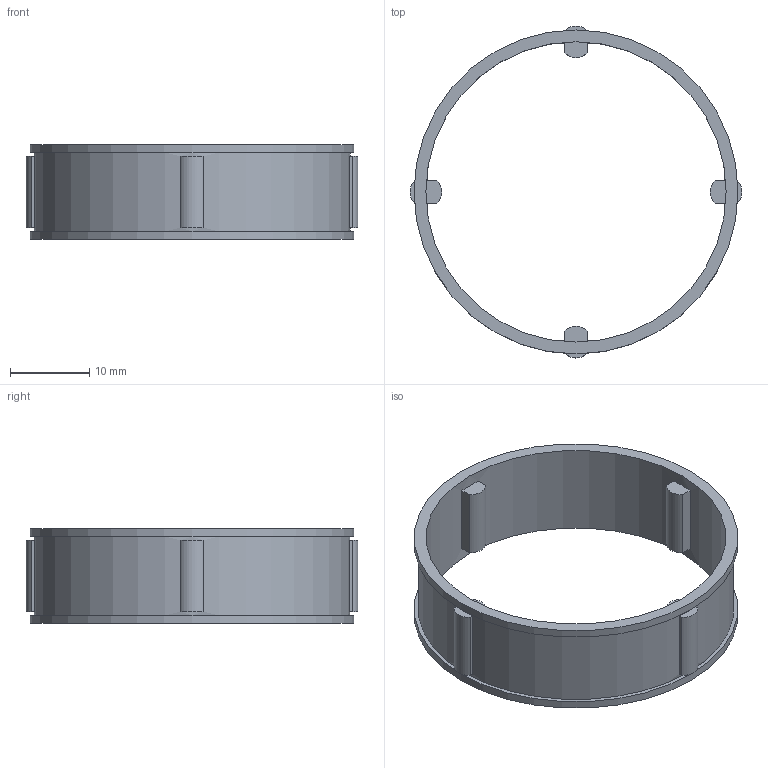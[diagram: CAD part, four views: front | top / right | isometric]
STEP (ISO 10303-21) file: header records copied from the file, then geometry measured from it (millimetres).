
FILE_DESCRIPTION(/* description */ (''),/* implementation_level */ '2;1');
FILE_NAME(/* name */ '300462 FE 442 M.stp',/* time_stamp */ '2016-11-03T13:35:36+01:00',/* author */ (''),/* organization */ (''),/* preprocessor_version */ 'ST-DEVELOPER v15',/* originating_system */ 'SIEMENS PLM Software NX 8.5',/* authorisation */ '');
FILE_SCHEMA (('CONFIG_CONTROL_DESIGN'));
Length unit declared in the file: millimetre
Products named in the file (1): ATE0000081_01
Bounding box: 42 x 42 x 12 mm (x, y, z)
Volume: 1873 mm3; surface area: 3656.4 mm2
Topology: 1 solids, 1 shells, 48 faces, 114 edges, 76 vertices
Faces by surface type: plane 36, cylinder 12
Full cylindrical faces by diameter (mm): 38 x1, 40 x1, 41 x2
Entity records: 1420 total; most frequent: DIRECTION 242, CARTESIAN_POINT 225, ORIENTED_EDGE 208, EDGE_CURVE 104, AXIS2_PLACEMENT_3D 89, VERTEX_POINT 72, LINE 64, VECTOR 64
